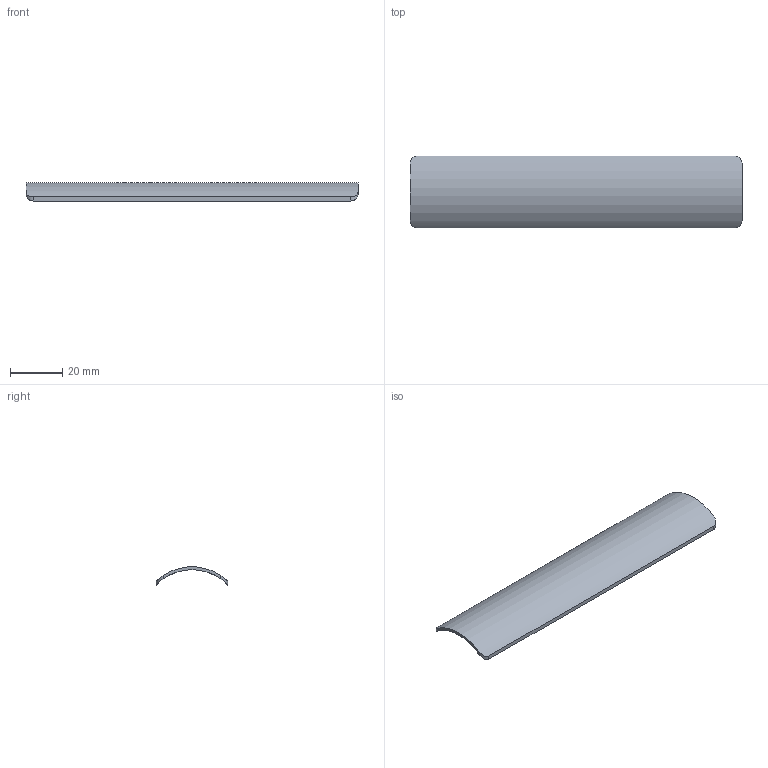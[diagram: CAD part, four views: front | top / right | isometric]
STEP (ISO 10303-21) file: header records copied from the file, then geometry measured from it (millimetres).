
FILE_DESCRIPTION(('SkyG Speed 90B - revision C6B-2 - 2026-10-08','HF-front-hatch'),'2;1');
FILE_NAME('HF-front-hatch_C6B-2','2026-10-08T01:12:38',('Author'),( 'Open CASCADE'),'Open CASCADE STEP processor 7.9','Open CASCADE 7.9' ,'Unknown');
FILE_SCHEMA(('AUTOMOTIVE_DESIGN { 1 0 10303 214 1 1 1 1 }'));
Length unit declared in the file: millimetre
Products named in the file (1): HF-front-hatch C6B-2
Bounding box: 127.4 x 27.4 x 6.91 mm (x, y, z)
Volume: 4241 mm3; surface area: 8201.1 mm2
Topology: 1 solids, 1 shells, 18 faces, 45 edges, 30 vertices
Faces by surface type: plane 10, cylinder 8
Entity records: 2281 total; most frequent: CARTESIAN_POINT 1431, DIRECTION 134, ORIENTED_EDGE 90, PCURVE 90, DEFINITIONAL_REPRESENTATION 90, LINE 64, VECTOR 64, B_SPLINE_CURVE_WITH_KNOTS 49
